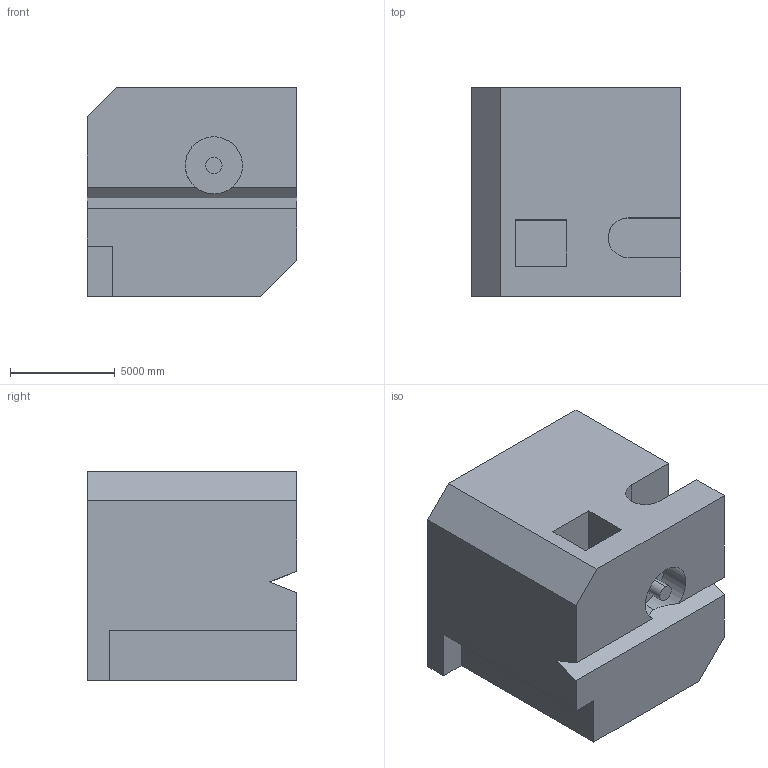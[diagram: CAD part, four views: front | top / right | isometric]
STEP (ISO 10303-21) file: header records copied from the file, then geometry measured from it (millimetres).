
FILE_DESCRIPTION (( 'STEP AP203' ), '1' );
FILE_NAME ('1694.STEP', '2022-08-25T15:30:19', ( 'user' ), ( '' ), 'SwSTEP 2.0', 'SolidWorks 2021', '' );
FILE_SCHEMA (( 'CONFIG_CONTROL_DESIGN' ));
Length unit declared in the file: centimetre
Products named in the file (1): 1694
Bounding box: 10000 x 10000 x 10000 mm (x, y, z)
Volume: 862592011826.4 mm3; surface area: 707669032.1 mm2
Topology: 1 solids, 1 shells, 29 faces, 75 edges, 50 vertices
Faces by surface type: plane 24, cylinder 5
Entity records: 956 total; most frequent: CARTESIAN_POINT 161, ORIENTED_EDGE 150, DIRECTION 143, EDGE_CURVE 75, LINE 63, VECTOR 63, VERTEX_POINT 50, AXIS2_PLACEMENT_3D 40
